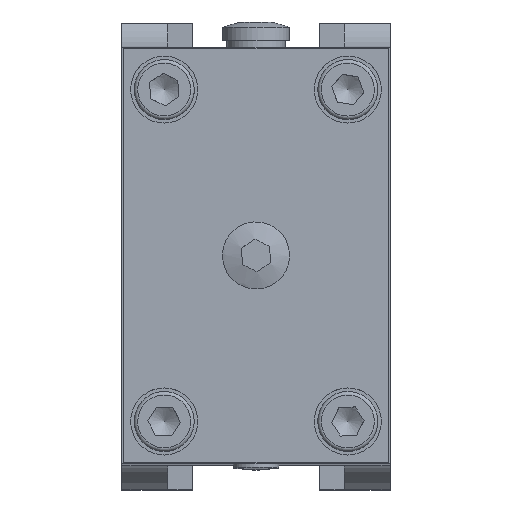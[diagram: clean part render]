
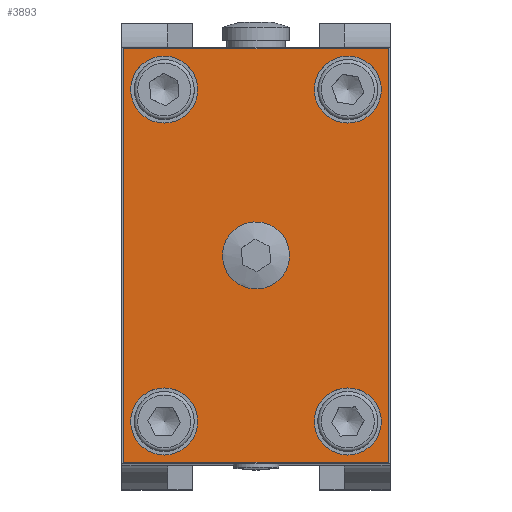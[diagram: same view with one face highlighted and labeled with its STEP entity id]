
A CAD part, top view. The second image highlights one B-rep face of the part: STEP entity #3893.
In plain terms, the highlighted planar face has unit normal (0, 0, 1).
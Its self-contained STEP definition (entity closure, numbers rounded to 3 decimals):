
#2060=CARTESIAN_POINT('',(-16.701,26.045,77.));
#2061=VERTEX_POINT('',#2060);
#2062=CARTESIAN_POINT('',(-19.,29.5,77.));
#2063=DIRECTION('',(0.,0.,-1.));
#2064=DIRECTION('',(0.554,-0.832,0.));
#2065=AXIS2_PLACEMENT_3D('',#2062,#2063,#2064);
#2066=CIRCLE('',#2065,4.15);
#2067=EDGE_CURVE('',#2061,#2061,#2066,.T.);
#3565=CARTESIAN_POINT('',(-36.75,53.,77.0));
#3566=VERTEX_POINT('',#3565);
#3567=CARTESIAN_POINT('',(-32.,53.,77.0));
#3568=DIRECTION('',(0.0,0.0,-1.0));
#3569=DIRECTION('',(-1.0,0.0,0.0));
#3570=AXIS2_PLACEMENT_3D('',#3567,#3568,#3569);
#3571=CIRCLE('',#3570,4.75);
#3572=EDGE_CURVE('',#3566,#3566,#3571,.T.);
#3626=CARTESIAN_POINT('',(-10.75,6.,77.));
#3627=VERTEX_POINT('',#3626);
#3628=CARTESIAN_POINT('',(-6.,6.,77.));
#3629=DIRECTION('',(0.0,0.0,-1.0));
#3630=DIRECTION('',(-1.0,0.0,0.0));
#3631=AXIS2_PLACEMENT_3D('',#3628,#3629,#3630);
#3632=CIRCLE('',#3631,4.75);
#3633=EDGE_CURVE('',#3627,#3627,#3632,.T.);
#3695=CARTESIAN_POINT('',(-36.75,6.,77.));
#3696=VERTEX_POINT('',#3695);
#3697=CARTESIAN_POINT('',(-32.,6.,77.));
#3698=DIRECTION('',(0.0,0.0,-1.0));
#3699=DIRECTION('',(-1.0,0.0,0.0));
#3700=AXIS2_PLACEMENT_3D('',#3697,#3698,#3699);
#3701=CIRCLE('',#3700,4.75);
#3702=EDGE_CURVE('',#3696,#3696,#3701,.T.);
#3756=CARTESIAN_POINT('',(-10.75,53.,77.0));
#3757=VERTEX_POINT('',#3756);
#3758=CARTESIAN_POINT('',(-6.,53.,77.0));
#3759=DIRECTION('',(0.0,0.0,-1.0));
#3760=DIRECTION('',(-1.0,0.0,0.0));
#3761=AXIS2_PLACEMENT_3D('',#3758,#3759,#3760);
#3762=CIRCLE('',#3761,4.75);
#3763=EDGE_CURVE('',#3757,#3757,#3762,.T.);
#3776=CARTESIAN_POINT('',(-0.25,58.75,77.));
#3777=VERTEX_POINT('',#3776);
#3778=CARTESIAN_POINT('',(-0.25,0.25,77.));
#3779=VERTEX_POINT('',#3778);
#3780=CARTESIAN_POINT('',(-0.25,58.75,77.));
#3781=DIRECTION('',(0.0,-1.0,0.0));
#3782=VECTOR('',#3781,58.5);
#3783=LINE('',#3780,#3782);
#3784=EDGE_CURVE('',#3777,#3779,#3783,.T.);
#3807=CARTESIAN_POINT('',(-37.75,0.25,77.));
#3808=VERTEX_POINT('',#3807);
#3809=CARTESIAN_POINT('',(-0.25,0.25,77.));
#3810=DIRECTION('',(-1.0,0.0,0.0));
#3811=VECTOR('',#3810,37.5);
#3812=LINE('',#3809,#3811);
#3813=EDGE_CURVE('',#3779,#3808,#3812,.T.);
#3831=CARTESIAN_POINT('',(-37.75,58.75,77.));
#3832=VERTEX_POINT('',#3831);
#3833=CARTESIAN_POINT('',(-37.75,0.25,77.));
#3834=DIRECTION('',(0.0,1.0,0.0));
#3835=VECTOR('',#3834,58.5);
#3836=LINE('',#3833,#3835);
#3837=EDGE_CURVE('',#3808,#3832,#3836,.T.);
#3855=CARTESIAN_POINT('',(-37.75,58.75,77.));
#3856=DIRECTION('',(1.0,0.0,0.0));
#3857=VECTOR('',#3856,37.5);
#3858=LINE('',#3855,#3857);
#3859=EDGE_CURVE('',#3832,#3777,#3858,.T.);
#3867=CARTESIAN_POINT('',(-19.,29.5,77.));
#3868=DIRECTION('',(0.0,0.0,-1.0));
#3869=DIRECTION('',(0.0,-1.0,0.0));
#3870=AXIS2_PLACEMENT_3D('',#3867,#3868,#3869);
#3871=PLANE('',#3870);
#3872=ORIENTED_EDGE('',*,*,#3784,.F.);
#3873=ORIENTED_EDGE('',*,*,#3859,.F.);
#3874=ORIENTED_EDGE('',*,*,#3837,.F.);
#3875=ORIENTED_EDGE('',*,*,#3813,.F.);
#3876=EDGE_LOOP('',(#3872,#3873,#3874,#3875));
#3877=FACE_OUTER_BOUND('',#3876,.T.);
#3878=ORIENTED_EDGE('',*,*,#2067,.T.);
#3879=EDGE_LOOP('',(#3878));
#3880=FACE_BOUND('',#3879,.T.);
#3881=ORIENTED_EDGE('',*,*,#3572,.T.);
#3882=EDGE_LOOP('',(#3881));
#3883=FACE_BOUND('',#3882,.T.);
#3884=ORIENTED_EDGE('',*,*,#3633,.T.);
#3885=EDGE_LOOP('',(#3884));
#3886=FACE_BOUND('',#3885,.T.);
#3887=ORIENTED_EDGE('',*,*,#3702,.T.);
#3888=EDGE_LOOP('',(#3887));
#3889=FACE_BOUND('',#3888,.T.);
#3890=ORIENTED_EDGE('',*,*,#3763,.T.);
#3891=EDGE_LOOP('',(#3890));
#3892=FACE_BOUND('',#3891,.T.);
#3893=ADVANCED_FACE('',(#3877,#3880,#3883,#3886,#3889,#3892),#3871,.F.);
